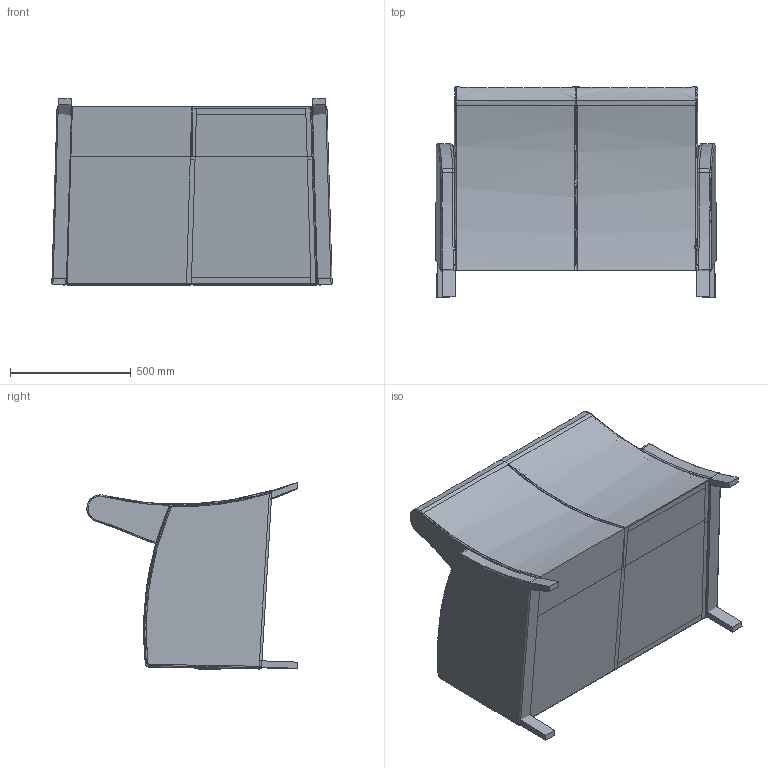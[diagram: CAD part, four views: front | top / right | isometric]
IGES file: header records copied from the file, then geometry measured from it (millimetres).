
Start section: SolidWorks IGES file using analytic representation for surfaces
Global section: file name: C:\Users\emanuel\Desktop\Siana_3D\Regina SG823D.IGS; native system: SolidWorks 2015; preprocessor: SolidWorks 2015; author: Emanuel; date: 151113.154935; units: millimetre
Bounding box: 1158.94 x 869.14 x 773.26 mm (x, y, z)
Surface area: 9061067.8 mm2 (no closed solid volume)
Topology: 0 solids, 0 shells, 588 faces, 6481 edges, 6461 vertices
Faces by surface type: bspline 446, revolution 142
